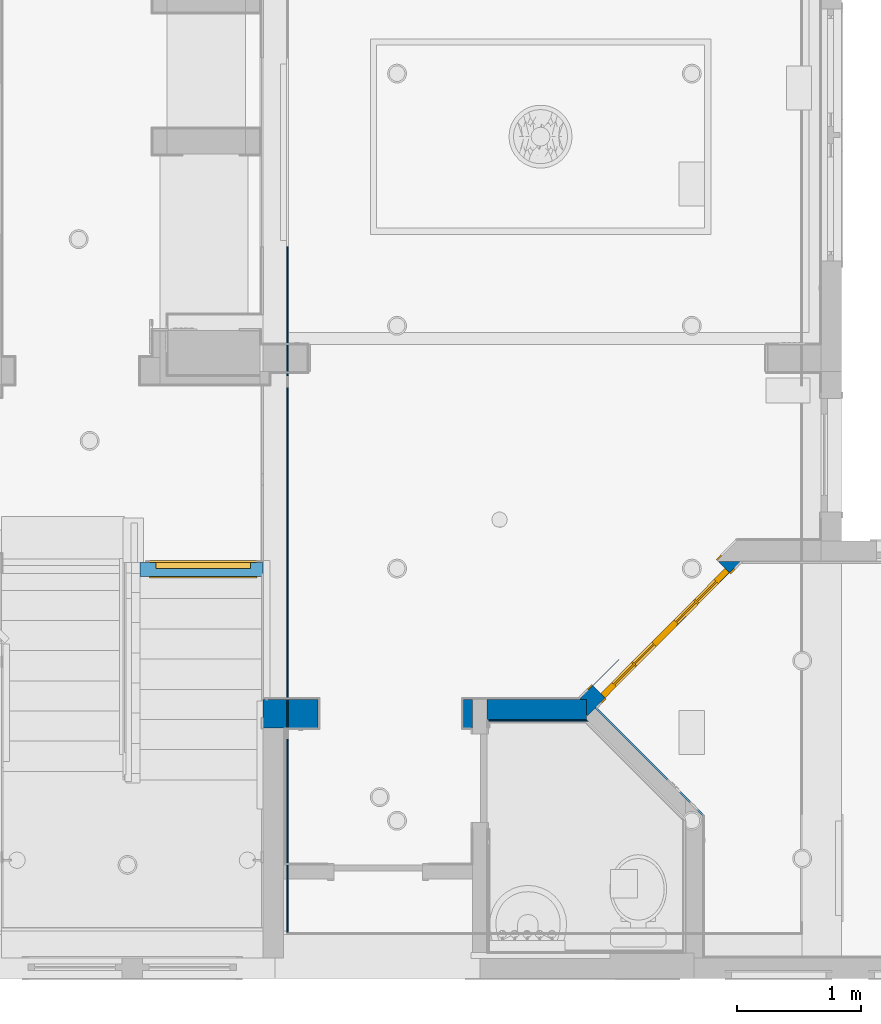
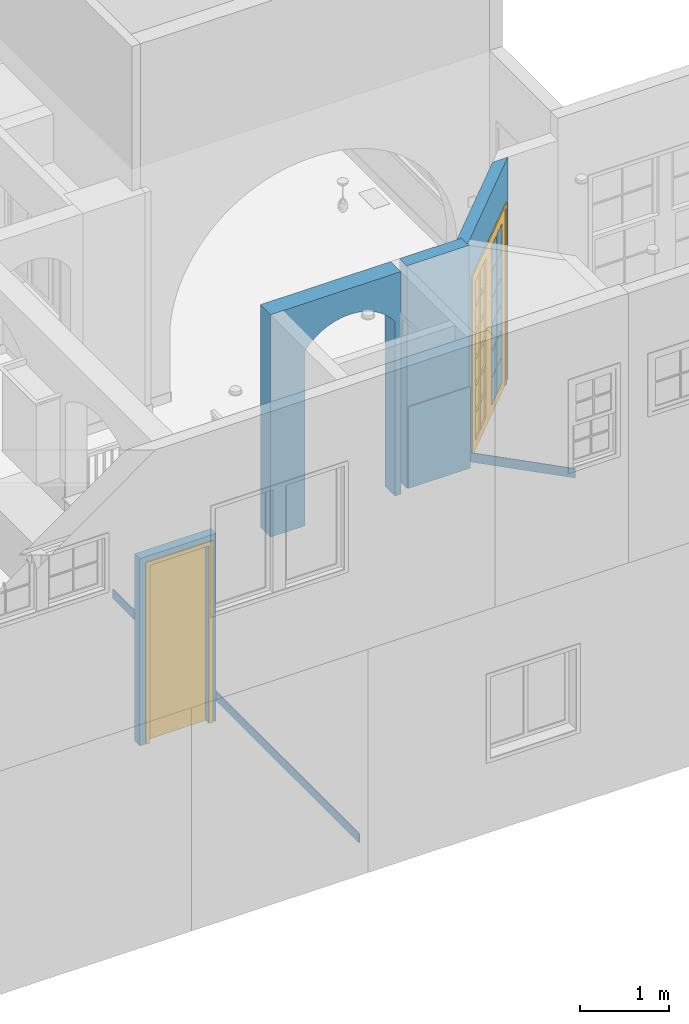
# One storey, part 6 of 81: 7 walls, 2 doors, 3 openings.
"""IFC2X3 building model written with IfcOpenShell, lengths in feet."""

from ifc_helpers import new_model, entity, si_unit, converted_unit, derived_unit, direction, frame, frame_2d, origin, origin_2d_with_axis, place, context, subcontext, project, spatial, polyline, circle_curve, parameter, trimmed, segment, composite_curve, rectangle, outline, extrude, clip, bounded_halfspace, source, transform, mapped, material, material_list, layer, layer_set, layer_usage, type_object, type_shapes, element, fill, save


model = new_model("IFC2X3")

# Units and contexts
model_context = context("Model", 3, precision=0.0001, world=origin(), true_north=direction((6.12303176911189e-17, 1.0)))
body_context = subcontext(model_context, "Body", "Model", "MODEL_VIEW")
ifc_project = project(units=[converted_unit("LENGTHUNIT", "FOOT", entity("IfcRatioMeasure", 0.3048), si_unit("LENGTHUNIT", "METRE"), dimensions=[1, 0, 0, 0, 0, 0, 0]), converted_unit("AREAUNIT", "SQUARE FOOT", entity("IfcRatioMeasure", 0.09290304), si_unit("AREAUNIT", "SQUARE_METRE"), dimensions=[2, 0, 0, 0, 0, 0, 0]), converted_unit("VOLUMEUNIT", "CUBIC FOOT", entity("IfcRatioMeasure", 0.028316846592), si_unit("VOLUMEUNIT", "CUBIC_METRE"), dimensions=[3, 0, 0, 0, 0, 0, 0]), converted_unit("PLANEANGLEUNIT", "DEGREE", entity("IfcRatioMeasure", 0.0174532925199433), si_unit("PLANEANGLEUNIT", "RADIAN"), dimensions=[0, 0, 0, 0, 0, 0, 0]), si_unit("MASSUNIT", "GRAM", prefix="KILO"), derived_unit("MASSDENSITYUNIT", [(si_unit("MASSUNIT", "GRAM", prefix="KILO"), 1), (si_unit("LENGTHUNIT", "METRE"), -3)]), derived_unit("MOMENTOFINERTIAUNIT", [(si_unit("LENGTHUNIT", "METRE"), 4)]), si_unit("TIMEUNIT", "SECOND"), si_unit("FREQUENCYUNIT", "HERTZ"), si_unit("THERMODYNAMICTEMPERATUREUNIT", "DEGREE_CELSIUS"), derived_unit("THERMALTRANSMITTANCEUNIT", [(si_unit("MASSUNIT", "GRAM", prefix="KILO"), 1), (si_unit("THERMODYNAMICTEMPERATUREUNIT", "KELVIN"), -1), (si_unit("TIMEUNIT", "SECOND"), -3)]), derived_unit("VOLUMETRICFLOWRATEUNIT", [(si_unit("LENGTHUNIT", "METRE"), 3), (si_unit("TIMEUNIT", "SECOND"), -1)]), si_unit("ELECTRICCURRENTUNIT", "AMPERE"), si_unit("ELECTRICVOLTAGEUNIT", "VOLT"), si_unit("POWERUNIT", "WATT"), si_unit("FORCEUNIT", "NEWTON"), si_unit("ILLUMINANCEUNIT", "LUX"), si_unit("LUMINOUSFLUXUNIT", "LUMEN"), si_unit("LUMINOUSINTENSITYUNIT", "CANDELA"), derived_unit("USERDEFINED", [(si_unit("MASSUNIT", "GRAM", prefix="KILO"), -1), (si_unit("LENGTHUNIT", "METRE"), -2), (si_unit("TIMEUNIT", "SECOND"), 3), (si_unit("LUMINOUSFLUXUNIT", "LUMEN"), 1)]), derived_unit("LINEARVELOCITYUNIT", [(si_unit("LENGTHUNIT", "METRE"), 1), (si_unit("TIMEUNIT", "SECOND"), -1)]), si_unit("PRESSUREUNIT", "PASCAL"), derived_unit("USERDEFINED", [(si_unit("LENGTHUNIT", "METRE"), -2), (si_unit("MASSUNIT", "GRAM", prefix="KILO"), 1), (si_unit("TIMEUNIT", "SECOND"), -2)]), derived_unit("LINEARFORCEUNIT", [(si_unit("MASSUNIT", "GRAM", prefix="KILO"), 1), (si_unit("LENGTHUNIT", "METRE"), 1), (si_unit("TIMEUNIT", "SECOND"), -2), (si_unit("LENGTHUNIT", "METRE"), -1)]), derived_unit("PLANARFORCEUNIT", [(si_unit("MASSUNIT", "GRAM", prefix="KILO"), 1), (si_unit("LENGTHUNIT", "METRE"), 1), (si_unit("TIMEUNIT", "SECOND"), -2), (si_unit("LENGTHUNIT", "METRE"), -2)])], contexts=[model_context])

# Site, building, storey
site_placement = place(None, origin())
site = spatial("IfcSite", under=ifc_project, at=site_placement, Name="Default", CompositionType="ELEMENT")
building_placement = place(site_placement, origin())
building = spatial("IfcBuilding", under=site, at=building_placement, CompositionType="ELEMENT")
storey_placement = place(building_placement, origin())
storey = spatial("IfcBuildingStorey", under=building, at=storey_placement, Name="First floor", CompositionType="ELEMENT", Elevation=0.0)

# Wall
ifc_material_1 = material(Name="Default New Material")
ifc_layer_1 = layer(ifc_material_1, 0.541666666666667)
ifc_layer_set_1 = layer_set([ifc_layer_1], Name="Basic Wall:Wall_6.5\"")
ifc_layer_usage_1 = layer_usage(ifc_layer_set_1, "AXIS2", "NEGATIVE", 0.270833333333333)
wall_type_1 = type_object("IfcWallType", Name="Basic Wall:Wall_6.5\"", PredefinedType="STANDARD", material=ifc_layer_set_1)
wall_1_placement = place(storey_placement, frame((26.2916666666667, 7.10416666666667, 10.6666666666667)))
element("IfcWallStandardCase", 1, at=wall_1_placement, inside=storey, type_object=wall_type_1, material=ifc_layer_usage_1, Name="Basic Wall:Wall_6.5\"", ObjectType="Basic Wall:Wall_6.5\"", context=body_context, shape_type="SweptSolid", body=[
    extrude(rectangle(XDim=2.63633658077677, YDim=0.541666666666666, at=frame_2d((1.31816829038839, 0.0), x_axis=(-1.0, 0.0))), origin(), (0.0, 0.0, 1.0), 10.0),
])

# Wall, opening, door
ifc_layer_2 = layer(ifc_material_1, 0.375)
ifc_layer_set_2 = layer_set([ifc_layer_2], Name="Basic Wall:Wall_4.5\"")
ifc_layer_usage_2 = layer_usage(ifc_layer_set_2, "AXIS2", "NEGATIVE", 0.1875)
wall_type_2 = type_object("IfcWallType", Name="Basic Wall:Wall_4.5\"", PredefinedType="STANDARD", material=ifc_layer_set_2)
wall_2_placement = place(storey_placement, frame((20.375, 10.8125, 0.0), z_axis=(0.0, 0.0, 1.0), x_axis=(-1.0, 0.0, 0.0)))
wall_2 = element("IfcWallStandardCase", 2, at=wall_2_placement, inside=storey, type_object=wall_type_2, material=ifc_layer_usage_2, Name="Basic Wall:Wall_4.5\"", ObjectType="Basic Wall:Wall_4.5\"", context=body_context, shape_type="SweptSolid", body=[
    extrude(rectangle(XDim=3.25000000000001, YDim=0.375, at=frame_2d((1.62500000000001, 2.63677968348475e-16), x_axis=(-1.0, 0.0))), origin(), (0.0, 0.0, 1.0), 8.41666666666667),
])
opening_1_placement = place(wall_2_placement, frame((2.8333333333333, 0.187499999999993, 0.0)))
opening_1 = element("IfcOpeningElement", 3, at=opening_1_placement, cuts=wall_2, Name="Door_1:2'-6\" X 8'-0\":1", ObjectType="Opening", context=body_context, shape_type="SweptSolid", body=[
    extrude(rectangle(XDim=2.5, YDim=8.0, at=frame_2d((4.0, 1.25), x_axis=(0.0, 1.0))), frame((0.0, 0.0, 0.0), z_axis=(0.0, -1.0, 0.0), x_axis=(0.0, 0.0, 1.0)), (0.0, 0.0, 1.0), 0.375),
])
ifc_material_list_1 = material_list([ifc_material_1, ifc_material_1])
door_style_1 = type_object("IfcDoorStyle", Name="Door_1:2'-6\" X 8'-0\"", ConstructionType="NOTDEFINED", OperationType="SINGLE_SWING_RIGHT", ParameterTakesPrecedence=False, Sizeable=False, material=ifc_material_list_1)
shared_shape_1 = source(origin(), body_context, "Body", "SweptSolid", [
    extrude(outline(polyline([(-1.41666666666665, -4.125), (1.41666666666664, -4.125), (1.41666666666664, 4.04166666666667), (1.25000000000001, 4.04166666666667), (1.25000000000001, -3.95833333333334), (-1.24999999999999, -3.95833333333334), (-1.24999999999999, 4.04166666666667), (-1.41666666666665, 4.04166666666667), (-1.41666666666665, -4.125)])), frame((1.24999999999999, 0.375000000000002, 4.04166666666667), z_axis=(0.0, 1.0, 0.0), x_axis=(1.0, 0.0, 0.0)), (0.0, 0.0, 1.0), 0.0416666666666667),
    extrude(outline(polyline([(-4.125, -1.41666666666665), (4.04166666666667, -1.41666666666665), (4.04166666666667, -1.24999999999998), (-3.95833333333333, -1.24999999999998), (-3.95833333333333, 1.24999999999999), (4.04166666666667, 1.24999999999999), (4.04166666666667, 1.41666666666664), (-4.125, 1.41666666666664), (-4.125, -1.41666666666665)])), frame((1.24999999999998, -0.0416666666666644, 4.04166666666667), z_axis=(0.0, 1.0, 0.0), x_axis=(0.0, 0.0, -1.0)), (0.0, 0.0, 1.0), 0.0416666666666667),
    extrude(rectangle(XDim=0.166666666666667, YDim=2.5, at=origin_2d_with_axis()), frame((1.25, 0.291666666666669, 0.0), z_axis=(0.0, 0.0, 1.0), x_axis=(0.0, 1.0, 0.0)), (0.0, 0.0, 1.0), 8.0),
])
type_shapes(door_style_1, [shared_shape_1])
door_1_placement = place(opening_1_placement, frame((0.0, 0.0, 0.0), z_axis=(0.0, 0.0, 1.0), x_axis=(-1.0, 0.0, 0.0)))
door_1 = element("IfcDoor", 4, at=door_1_placement, inside=storey, type_object=door_style_1, material=ifc_material_1, Name="Door_1:2'-6\" X 8'-0\"", ObjectType="Door_1:2'-6\" X 8'-0\"", OverallHeight=8.0, OverallWidth=2.5, context=body_context, shape_type="MappedRepresentation", body=[
    mapped(shared_shape_1, transform((0.0, 0.0, 0.0), scale=1.0)),
])
fill(opening_1, door_1)

ifc_layer_3 = layer(ifc_material_1, 0.458333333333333)
ifc_layer_set_3 = layer_set([ifc_layer_3], Name="Basic Wall:Wall_5.5\"")
ifc_layer_usage_3 = layer_usage(ifc_layer_set_3, "AXIS2", "NEGATIVE", 0.229166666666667)
wall_type_3 = type_object("IfcWallType", Name="Basic Wall:Wall_5.5\"", PredefinedType="STANDARD", material=ifc_layer_set_3)
wall_3_placement = place(storey_placement, frame((32.837491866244, 11.1824144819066, 10.6666666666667), z_axis=(0.0, 0.0, 1.0), x_axis=(-0.705081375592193, -0.709126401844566, 0.0)))
wall_3 = element("IfcWallStandardCase", 5, at=wall_3_placement, inside=storey, type_object=wall_type_3, material=ifc_layer_usage_3, Name="Basic Wall:Wall_5.5\"", ObjectType="Basic Wall:Wall_5.5\"", context=body_context, shape_type="Clipping", body=[
    clip(clip(extrude(outline(polyline([(5.75108725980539, 0.229166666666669), (5.46536851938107, 0.229166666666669), (0.0, 0.229166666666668), (0.455718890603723, -0.22916666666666), (5.59702137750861, -0.229166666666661), (5.45644574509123, -0.0877845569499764), (5.75108725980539, 0.205176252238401), (5.75108725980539, 0.229166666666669)])), origin(), (0.0, 0.0, 1.0), 10.0), bounded_halfspace(frame((5.45644574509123, -0.0877845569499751, 0.0), z_axis=(-0.709126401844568, -0.705081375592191, 0.0), x_axis=(0.705081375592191, -0.709126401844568, 0.0)), True, frame((5.45644574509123, -0.0877845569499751, 0.0), z_axis=(-0.709126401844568, -0.705081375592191, 0.0), x_axis=(0.705081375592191, -0.709126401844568, 0.0)), polyline([(0.0, 0.0), (0.199375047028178, 0.0), (0.199375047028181, 10.0), (0.0, 10.0), (0.0, 0.0)]))), bounded_halfspace(frame((5.45644574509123, -0.0877845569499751, 10.0), z_axis=(-0.705081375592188, 0.70912640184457, 0.0), x_axis=(-0.70912640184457, -0.705081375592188, 0.0)), True, frame((5.45644574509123, -0.0877845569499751, 10.0), z_axis=(-0.705081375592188, 0.70912640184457, 0.0), x_axis=(-0.70912640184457, -0.705081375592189, 0.0)), polyline([(0.0, 0.0), (-0.415499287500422, 0.0), (-0.415499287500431, -10.0), (0.0, -10.0), (0.0, 0.0)]))),
])
opening_2_placement = place(wall_3_placement, frame((0.417320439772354, -0.235840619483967, 0.0)))
opening_2 = element("IfcOpeningElement", 6, at=opening_2_placement, cuts=wall_3, Name="Door_5:4'-8\" X 8'-0\":1", ObjectType="Opening", context=body_context, shape_type="SweptSolid", body=[
    extrude(rectangle(XDim=4.66666666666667, YDim=8.0, at=frame_2d((4.0, 2.33333333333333), x_axis=(0.0, 1.0))), frame((0.0, 0.0, 0.0), z_axis=(-0.00286026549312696, 0.999995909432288, 0.0), x_axis=(0.0, 0.0, 1.0)), (0.0, 0.0, 1.0), 0.458333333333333),
])
ifc_material_2 = material(Name="Glass")
ifc_material_list_2 = material_list([ifc_material_2, ifc_material_1])
ifc_material_list_3 = material_list([ifc_material_1, ifc_material_1, ifc_material_2])
door_style_2 = type_object("IfcDoorStyle", Name="Door_5:4'-8\" X 8'-0\"", ConstructionType="NOTDEFINED", OperationType="DOUBLE_DOOR_SINGLE_SWING_OPPOSITE_LEFT", ParameterTakesPrecedence=False, Sizeable=False, material=ifc_material_list_3)
shared_shape_2 = source(origin(), body_context, "Body", "SweptSolid", [
    extrude(rectangle(XDim=0.0416666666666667, YDim=0.729166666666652, at=frame_2d((-1.38777878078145e-17, 0.0), x_axis=(1.0, 0.0))), frame((0.781249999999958, 0.374999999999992, 6.40972222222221), z_axis=(0.0, 0.0, 1.0), x_axis=(0.0, -1.0, 0.0)), (0.0, 0.0, 1.0), 1.17361111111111),
    extrude(rectangle(XDim=0.0416666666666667, YDim=0.729166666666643, at=frame_2d((-1.38777878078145e-17, 1.11022302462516e-16), x_axis=(1.0, 0.0))), frame((0.781249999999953, 0.374999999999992, 0.416666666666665), z_axis=(0.0, 0.0, 1.0), x_axis=(0.0, -1.0, 0.0)), (0.0, 0.0, 1.0), 1.17361111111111),
    extrude(rectangle(XDim=0.0416666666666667, YDim=0.729166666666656, at=frame_2d((-1.38777878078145e-17, 1.11022302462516e-16), x_axis=(1.0, 0.0))), frame((1.55208333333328, 0.374999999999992, 6.40972222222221), z_axis=(0.0, 0.0, 1.0), x_axis=(0.0, -1.0, 0.0)), (0.0, 0.0, 1.0), 1.17361111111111),
    extrude(rectangle(XDim=0.0416666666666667, YDim=0.729166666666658, at=frame_2d((-1.38777878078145e-17, 1.11022302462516e-16), x_axis=(1.0, 0.0))), frame((1.55208333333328, 0.374999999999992, 5.21527777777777), z_axis=(0.0, 0.0, 1.0), x_axis=(0.0, -1.0, 0.0)), (0.0, 0.0, 1.0), 1.15277777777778),
    extrude(rectangle(XDim=0.0416666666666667, YDim=0.72916666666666, at=frame_2d((-1.38777878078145e-17, 0.0), x_axis=(1.0, 0.0))), frame((1.55208333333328, 0.374999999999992, 4.02083333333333), z_axis=(0.0, 0.0, 1.0), x_axis=(0.0, -1.0, 0.0)), (0.0, 0.0, 1.0), 1.15277777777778),
    extrude(rectangle(XDim=0.0416666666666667, YDim=0.729166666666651, at=frame_2d((-1.38777878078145e-17, 0.0), x_axis=(1.0, 0.0))), frame((0.781249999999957, 0.374999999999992, 5.21527777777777), z_axis=(0.0, 0.0, 1.0), x_axis=(0.0, -1.0, 0.0)), (0.0, 0.0, 1.0), 1.15277777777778),
    extrude(rectangle(XDim=0.0416666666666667, YDim=0.729166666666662, at=frame_2d((-1.38777878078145e-17, 1.11022302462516e-16), x_axis=(1.0, 0.0))), frame((1.55208333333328, 0.374999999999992, 2.82638888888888), z_axis=(0.0, 0.0, 1.0), x_axis=(0.0, -1.0, 0.0)), (0.0, 0.0, 1.0), 1.15277777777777),
    extrude(rectangle(XDim=0.0416666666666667, YDim=0.729166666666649, at=frame_2d((-1.38777878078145e-17, -1.11022302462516e-16), x_axis=(1.0, 0.0))), frame((0.781249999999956, 0.374999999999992, 4.02083333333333), z_axis=(0.0, 0.0, 1.0), x_axis=(0.0, -1.0, 0.0)), (0.0, 0.0, 1.0), 1.15277777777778),
    extrude(rectangle(XDim=0.0416666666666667, YDim=0.729166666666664, at=frame_2d((-1.38777878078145e-17, 1.11022302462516e-16), x_axis=(1.0, 0.0))), frame((1.55208333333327, 0.374999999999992, 1.63194444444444), z_axis=(0.0, 0.0, 1.0), x_axis=(0.0, -1.0, 0.0)), (0.0, 0.0, 1.0), 1.15277777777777),
    extrude(rectangle(XDim=0.0416666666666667, YDim=0.729166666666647, at=frame_2d((-1.38777878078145e-17, 0.0), x_axis=(1.0, 0.0))), frame((0.781249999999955, 0.374999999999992, 2.82638888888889), z_axis=(0.0, 0.0, 1.0), x_axis=(0.0, -1.0, 0.0)), (0.0, 0.0, 1.0), 1.15277777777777),
    extrude(rectangle(XDim=0.0416666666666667, YDim=0.729166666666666, at=frame_2d((-1.38777878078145e-17, 0.0), x_axis=(1.0, 0.0))), frame((1.55208333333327, 0.374999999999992, 0.416666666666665), z_axis=(0.0, 0.0, 1.0), x_axis=(0.0, -1.0, 0.0)), (0.0, 0.0, 1.0), 1.17361111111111),
    extrude(rectangle(XDim=0.0416666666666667, YDim=0.729166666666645, at=frame_2d((-1.38777878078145e-17, 0.0), x_axis=(1.0, 0.0))), frame((0.781249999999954, 0.374999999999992, 1.63194444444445), z_axis=(0.0, 0.0, 1.0), x_axis=(0.0, -1.0, 0.0)), (0.0, 0.0, 1.0), 1.15277777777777),
    extrude(rectangle(XDim=0.0416666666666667, YDim=0.729166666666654, at=frame_2d((1.38777878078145e-17, 0.0), x_axis=(1.0, 0.0))), frame((3.11458333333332, 0.374999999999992, 6.40972222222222), z_axis=(0.0, 0.0, 1.0), x_axis=(0.0, -1.0, 0.0)), (0.0, 0.0, 1.0), 1.1736111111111),
    extrude(rectangle(XDim=0.0416666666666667, YDim=0.729166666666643, at=frame_2d((1.38777878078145e-17, 0.0), x_axis=(1.0, 0.0))), frame((3.11458333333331, 0.374999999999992, 0.416666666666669), z_axis=(0.0, 0.0, 1.0), x_axis=(0.0, -1.0, 0.0)), (0.0, 0.0, 1.0), 1.17361111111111),
    extrude(rectangle(XDim=0.0416666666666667, YDim=0.729166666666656, at=frame_2d((1.38777878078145e-17, 1.11022302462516e-16), x_axis=(1.0, 0.0))), frame((3.88541666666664, 0.374999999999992, 6.40972222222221), z_axis=(0.0, 0.0, 1.0), x_axis=(0.0, -1.0, 0.0)), (0.0, 0.0, 1.0), 1.17361111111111),
    extrude(rectangle(XDim=0.0416666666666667, YDim=0.729166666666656, at=frame_2d((1.38777878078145e-17, 1.11022302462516e-16), x_axis=(1.0, 0.0))), frame((3.88541666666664, 0.374999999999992, 5.21527777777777), z_axis=(0.0, 0.0, 1.0), x_axis=(0.0, -1.0, 0.0)), (0.0, 0.0, 1.0), 1.15277777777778),
    extrude(rectangle(XDim=0.0416666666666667, YDim=0.729166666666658, at=frame_2d((1.38777878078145e-17, 1.11022302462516e-16), x_axis=(1.0, 0.0))), frame((3.88541666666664, 0.374999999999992, 4.02083333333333), z_axis=(0.0, 0.0, 1.0), x_axis=(0.0, -1.0, 0.0)), (0.0, 0.0, 1.0), 1.15277777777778),
    extrude(rectangle(XDim=0.0416666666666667, YDim=0.729166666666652, at=frame_2d((1.38777878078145e-17, 0.0), x_axis=(1.0, 0.0))), frame((3.11458333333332, 0.374999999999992, 5.21527777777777), z_axis=(0.0, 0.0, 1.0), x_axis=(0.0, -1.0, 0.0)), (0.0, 0.0, 1.0), 1.15277777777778),
    extrude(rectangle(XDim=0.0416666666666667, YDim=0.72916666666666, at=frame_2d((1.38777878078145e-17, 0.0), x_axis=(1.0, 0.0))), frame((3.88541666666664, 0.374999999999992, 2.82638888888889), z_axis=(0.0, 0.0, 1.0), x_axis=(0.0, -1.0, 0.0)), (0.0, 0.0, 1.0), 1.15277777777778),
    extrude(rectangle(XDim=0.0416666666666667, YDim=0.729166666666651, at=frame_2d((1.38777878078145e-17, 0.0), x_axis=(1.0, 0.0))), frame((3.11458333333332, 0.374999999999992, 4.02083333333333), z_axis=(0.0, 0.0, 1.0), x_axis=(0.0, -1.0, 0.0)), (0.0, 0.0, 1.0), 1.15277777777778),
    extrude(rectangle(XDim=0.0416666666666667, YDim=0.729166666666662, at=frame_2d((1.38777878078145e-17, 1.11022302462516e-16), x_axis=(1.0, 0.0))), frame((3.88541666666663, 0.374999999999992, 1.63194444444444), z_axis=(0.0, 0.0, 1.0), x_axis=(0.0, -1.0, 0.0)), (0.0, 0.0, 1.0), 1.15277777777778),
    extrude(rectangle(XDim=0.0416666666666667, YDim=0.729166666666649, at=frame_2d((1.38777878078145e-17, 0.0), x_axis=(1.0, 0.0))), frame((3.11458333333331, 0.374999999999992, 2.82638888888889), z_axis=(0.0, 0.0, 1.0), x_axis=(0.0, -1.0, 0.0)), (0.0, 0.0, 1.0), 1.15277777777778),
    extrude(rectangle(XDim=0.0416666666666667, YDim=0.729166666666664, at=frame_2d((1.38777878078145e-17, 1.11022302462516e-16), x_axis=(1.0, 0.0))), frame((3.88541666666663, 0.374999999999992, 0.41666666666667), z_axis=(0.0, 0.0, 1.0), x_axis=(0.0, -1.0, 0.0)), (0.0, 0.0, 1.0), 1.17361111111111),
    extrude(rectangle(XDim=0.0416666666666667, YDim=0.729166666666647, at=frame_2d((1.38777878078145e-17, 0.0), x_axis=(1.0, 0.0))), frame((3.11458333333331, 0.374999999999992, 1.63194444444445), z_axis=(0.0, 0.0, 1.0), x_axis=(0.0, -1.0, 0.0)), (0.0, 0.0, 1.0), 1.15277777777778),
    extrude(outline(polyline([(-2.50000000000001, -4.04166666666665), (-2.33333333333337, -4.04166666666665), (-2.33333333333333, 3.95833333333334), (2.33333333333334, 3.95833333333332), (2.3333333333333, -4.04166666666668), (2.5, -4.04166666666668), (2.50000000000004, 4.12499999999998), (-2.49999999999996, 4.12500000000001), (-2.50000000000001, -4.04166666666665)])), frame((2.33333333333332, 0.458333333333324, 4.04166666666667), z_axis=(0.0, 1.0, 0.0), x_axis=(-1.0, 0.0, 0.0)), (0.0, 0.0, 1.0), 0.0416666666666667),
    extrude(outline(polyline([(-1.16666666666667, -4.0), (1.16666666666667, -4.0), (1.16666666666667, 4.0), (-1.16666666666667, 4.0), (-1.16666666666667, -4.0)]), holes=[polyline([(-0.0208333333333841, -3.58333333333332), (-0.750000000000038, -3.58333333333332), (-0.750000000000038, -2.40972222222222), (-0.0208333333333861, -2.40972222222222), (-0.0208333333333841, -3.58333333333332)]), polyline([(-0.0208333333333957, 3.58333333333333), (-0.0208333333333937, 2.40972222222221), (-0.750000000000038, 2.40972222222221), (-0.750000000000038, 3.58333333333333), (-0.0208333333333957, 3.58333333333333)]), polyline([(0.749999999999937, -2.40972222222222), (0.749999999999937, -3.58333333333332), (0.0208333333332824, -3.58333333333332), (0.0208333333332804, -2.40972222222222), (0.749999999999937, -2.40972222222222)]), polyline([(0.0208333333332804, -2.36805555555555), (0.0208333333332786, -1.21527777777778), (0.749999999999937, -1.21527777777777), (0.749999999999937, -2.36805555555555), (0.0208333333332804, -2.36805555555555)]), polyline([(0.0208333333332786, -1.17361111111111), (0.0208333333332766, -0.0208333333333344), (0.749999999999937, -0.0208333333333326), (0.749999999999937, -1.17361111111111), (0.0208333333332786, -1.17361111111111)]), polyline([(-0.0208333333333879, -1.21527777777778), (-0.0208333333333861, -2.36805555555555), (-0.750000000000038, -2.36805555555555), (-0.750000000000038, -1.21527777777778), (-0.0208333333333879, -1.21527777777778)]), polyline([(0.0208333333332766, 0.0208333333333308), (0.0208333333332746, 1.17361111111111), (0.749999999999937, 1.17361111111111), (0.749999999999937, 0.0208333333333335), (0.0208333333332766, 0.0208333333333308)]), polyline([(-0.0208333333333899, -0.0208333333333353), (-0.0208333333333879, -1.17361111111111), (-0.750000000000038, -1.17361111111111), (-0.750000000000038, -0.020833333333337), (-0.0208333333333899, -0.0208333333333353)]), polyline([(0.0208333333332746, 1.21527777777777), (0.0208333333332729, 2.36805555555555), (0.749999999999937, 2.36805555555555), (0.749999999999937, 1.21527777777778), (0.0208333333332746, 1.21527777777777)]), polyline([(-0.0208333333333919, 1.17361111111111), (-0.0208333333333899, 0.0208333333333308), (-0.750000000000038, 0.020833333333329), (-0.750000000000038, 1.1736111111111), (-0.0208333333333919, 1.17361111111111)]), polyline([(0.0208333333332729, 2.40972222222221), (0.0208333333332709, 3.58333333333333), (0.749999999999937, 3.58333333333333), (0.749999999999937, 2.40972222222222), (0.0208333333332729, 2.40972222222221)]), polyline([(-0.0208333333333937, 2.36805555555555), (-0.0208333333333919, 1.21527777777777), (-0.750000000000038, 1.21527777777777), (-0.750000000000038, 2.36805555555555), (-0.0208333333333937, 2.36805555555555)])]), frame((1.16666666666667, 0.291666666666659, 4.0), z_axis=(0.0, 1.0, 0.0), x_axis=(1.0, 0.0, 0.0)), (0.0, 0.0, 1.0), 0.166666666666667),
    extrude(outline(polyline([(-2.50000000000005, -4.04166666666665), (-2.33333333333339, -4.04166666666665), (-2.33333333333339, 3.95833333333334), (2.3333333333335, 3.95833333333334), (2.3333333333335, -4.04166666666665), (2.49999999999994, -4.04166666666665), (2.49999999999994, 4.12499999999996), (-2.50000000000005, 4.12499999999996), (-2.50000000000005, -4.04166666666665)])), frame((2.33333333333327, -0.0416666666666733, 4.04166666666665), z_axis=(0.0, 1.0, 0.0), x_axis=(-1.0, 0.0, 0.0)), (0.0, 0.0, 1.0), 0.0416666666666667),
    extrude(outline(polyline([(-4.0, -1.16666666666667), (4.0, -1.16666666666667), (4.0, 1.16666666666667), (-4.0, 1.16666666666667), (-4.0, -1.16666666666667)]), holes=[polyline([(-3.58333333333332, 0.0208333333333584), (-3.58333333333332, 0.750000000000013), (-2.40972222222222, 0.750000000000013), (-2.40972222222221, 0.0208333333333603), (-3.58333333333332, 0.0208333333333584)]), polyline([(3.58333333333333, 0.0208333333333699), (2.40972222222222, 0.0208333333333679), (2.40972222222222, 0.750000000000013), (3.58333333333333, 0.750000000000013), (3.58333333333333, 0.0208333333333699)]), polyline([(-2.40972222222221, -0.749999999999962), (-3.58333333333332, -0.749999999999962), (-3.58333333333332, -0.0208333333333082), (-2.40972222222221, -0.0208333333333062), (-2.40972222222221, -0.749999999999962)]), polyline([(-2.36805555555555, -0.0208333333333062), (-1.21527777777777, -0.0208333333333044), (-1.21527777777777, -0.749999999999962), (-2.36805555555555, -0.749999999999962), (-2.36805555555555, -0.0208333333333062)]), polyline([(-1.17361111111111, -0.0208333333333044), (-0.0208333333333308, -0.0208333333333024), (-0.020833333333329, -0.749999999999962), (-1.1736111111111, -0.749999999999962), (-1.17361111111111, -0.0208333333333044)]), polyline([(-1.21527777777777, 0.0208333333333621), (-2.36805555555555, 0.0208333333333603), (-2.36805555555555, 0.750000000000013), (-1.21527777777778, 0.750000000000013), (-1.21527777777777, 0.0208333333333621)]), polyline([(0.0208333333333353, -0.0208333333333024), (1.17361111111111, -0.0208333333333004), (1.17361111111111, -0.749999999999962), (0.0208333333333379, -0.749999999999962), (0.0208333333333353, -0.0208333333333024)]), polyline([(-0.0208333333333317, 0.0208333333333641), (-1.17361111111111, 0.0208333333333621), (-1.17361111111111, 0.750000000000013), (-0.0208333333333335, 0.750000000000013), (-0.0208333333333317, 0.0208333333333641)]), polyline([(1.21527777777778, -0.0208333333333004), (2.36805555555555, -0.0208333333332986), (2.36805555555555, -0.749999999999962), (1.21527777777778, -0.749999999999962), (1.21527777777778, -0.0208333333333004)]), polyline([(1.17361111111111, 0.0208333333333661), (0.0208333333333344, 0.0208333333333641), (0.0208333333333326, 0.750000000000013), (1.17361111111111, 0.750000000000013), (1.17361111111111, 0.0208333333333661)]), polyline([(2.40972222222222, -0.0208333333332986), (3.58333333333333, -0.0208333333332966), (3.58333333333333, -0.749999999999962), (2.40972222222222, -0.749999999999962), (2.40972222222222, -0.0208333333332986)]), polyline([(2.36805555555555, 0.0208333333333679), (1.21527777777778, 0.0208333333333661), (1.21527777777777, 0.750000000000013), (2.36805555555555, 0.750000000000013), (2.36805555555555, 0.0208333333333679)])]), frame((3.5, 0.291666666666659, 4.0), z_axis=(0.0, 1.0, 0.0), x_axis=(0.0, 0.0, -1.0)), (0.0, 0.0, 1.0), 0.166666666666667),
])
type_shapes(door_style_2, [shared_shape_2])
door_2_placement = place(opening_2_placement, frame((0.0, 0.00786666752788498, 0.0)))
door_2 = element("IfcDoor", 7, at=door_2_placement, inside=storey, type_object=door_style_2, material=ifc_material_list_2, Name="Door_5:4'-8\" X 8'-0\"", ObjectType="Door_5:4'-8\" X 8'-0\"", OverallHeight=8.0, OverallWidth=4.66666666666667, context=body_context, shape_type="MappedRepresentation", body=[
    mapped(shared_shape_2, transform((0.0, 0.0, 0.0), scale=1.0)),
])
fill(opening_2, door_2)

# Wall, opening
ifc_layer_4 = layer(ifc_material_1, 0.75)
ifc_layer_set_4 = layer_set([ifc_layer_4], Name="Basic Wall:Wall_9\"")
ifc_layer_usage_4 = layer_usage(ifc_layer_set_4, "AXIS2", "NEGATIVE", 0.375)
wall_type_4 = type_object("IfcWallType", Name="Basic Wall:Wall_9\"", PredefinedType="STANDARD", material=ifc_layer_set_4)
wall_4_placement = place(storey_placement, frame((25.9166666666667, 7.0, 10.6666666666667), z_axis=(0.0, 0.0, 1.0), x_axis=(-1.0, 0.0, 0.0)))
wall_4 = element("IfcWallStandardCase", 8, at=wall_4_placement, inside=storey, type_object=wall_type_4, material=ifc_layer_usage_4, Name="Basic Wall:Wall_9\"", ObjectType="Basic Wall:Wall_9\"", context=body_context, shape_type="SweptSolid", body=[
    extrude(rectangle(XDim=5.54166666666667, YDim=0.75, at=frame_2d((2.77083333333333, 0.0), x_axis=(-1.0, 0.0))), origin(), (0.0, 0.0, 1.0), 10.0),
])
opening_3_placement = place(wall_4_placement, origin())
element("IfcOpeningElement", 9, at=opening_3_placement, cuts=wall_4, Name="Basic Wall:Wall_9\"", ObjectType="Opening", context=body_context, shape_type="SweptSolid", body=[
    extrude(outline(composite_curve([segment(trimmed(circle_curve(frame_2d((-2.57986111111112, 0.0), x_axis=(1.0, 0.0)), 2.33680555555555), [parameter(124.894376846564)], [parameter(235.105623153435)], True, "PARAMETER"), True, "CONTINUOUS"), segment(polyline([(-3.91666666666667, -1.91666666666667), (3.91666666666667, -1.91666666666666)]), True, "CONTINUOUS"), segment(polyline([(3.91666666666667, -1.91666666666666), (3.91666666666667, 1.91666666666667)]), True, "CONTINUOUS"), segment(polyline([(3.91666666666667, 1.91666666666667), (-3.91666666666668, 1.91666666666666)]), True, "CONTINUOUS")], self_intersect=False)), frame((2.16666666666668, -0.375000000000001, 3.91666666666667), z_axis=(0.0, 1.0, 0.0), x_axis=(0.0, 0.0, -1.0)), (0.0, 0.0, 1.0), 0.75),
])

# Walls
ifc_layer_5 = layer(ifc_material_1, 0.0416666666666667)
ifc_layer_set_5 = layer_set([ifc_layer_5], Name="Basic Wall:Wall Border_T1")
ifc_layer_usage_5 = layer_usage(ifc_layer_set_5, "AXIS2", "POSITIVE", -0.0208333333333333)
wall_type_5 = type_object("IfcWallType", Name="Basic Wall:Wall Border_T1", PredefinedType="STANDARD", material=ifc_layer_set_5)
wall_5_placement = place(storey_placement, frame((21.0208333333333, 1.20833333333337, 0.0), z_axis=(0.0, 0.0, 1.0), x_axis=(0.0, 1.0, 0.0)))
element("IfcWallStandardCase", 10, at=wall_5_placement, inside=storey, type_object=wall_type_5, material=ifc_layer_usage_5, Name="Basic Wall:Wall Border_T1", ObjectType="Basic Wall:Wall Border_T1", context=body_context, shape_type="SweptSolid", body=[
    extrude(rectangle(XDim=18.125, YDim=0.0416666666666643, at=frame_2d((9.06249999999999, -1.61329283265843e-16), x_axis=(-1.0, 0.0))), origin(), (0.0, 0.0, 1.0), 0.416666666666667),
])
ifc_layer_usage_6 = layer_usage(ifc_layer_set_5, "AXIS2", "POSITIVE", -0.0208333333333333)
wall_6_placement = place(storey_placement, frame((26.3333333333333, 6.81250000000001, 10.6666666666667)))
element("IfcWallStandardCase", 11, at=wall_6_placement, inside=storey, type_object=wall_type_5, material=ifc_layer_usage_6, Name="Basic Wall:Wall Border_T1", ObjectType="Basic Wall:Wall Border_T1", context=body_context, shape_type="SweptSolid", body=[
    extrude(outline(polyline([(2.63633658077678, -0.0208333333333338), (2.59466991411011, 0.020833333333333), (0.0, 0.020833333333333), (0.0, -0.0208333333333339), (2.5774110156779, -0.020833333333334), (2.63633658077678, -0.0208333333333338)])), origin(), (0.0, 0.0, 1.0), 3.66666666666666),
])
ifc_layer_usage_7 = layer_usage(ifc_layer_set_5, "AXIS2", "POSITIVE", -0.0208333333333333)
wall_7_placement = place(storey_placement, frame((32.0147313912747, 4.3063980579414, 10.6666666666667), z_axis=(0.0, 0.0, 1.0), x_axis=(-0.707106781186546, 0.707106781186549, 0.0)))
element("IfcWallStandardCase", 12, at=wall_7_placement, inside=storey, type_object=wall_type_5, material=ifc_layer_usage_7, Name="Basic Wall:Wall Border_T1", ObjectType="Basic Wall:Wall Border_T1", context=body_context, shape_type="SweptSolid", body=[
    extrude(outline(polyline([(4.03561937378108, -0.0208333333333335), (4.0355001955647, 0.0208333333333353), (0.0, 0.020833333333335), (0.0416666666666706, -0.0208333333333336), (3.9939525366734, -0.020833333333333), (4.03561937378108, -0.0208333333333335)])), origin(), (0.0, 0.0, 1.0), 0.416666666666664),
])

save(model, "model.ifc")
